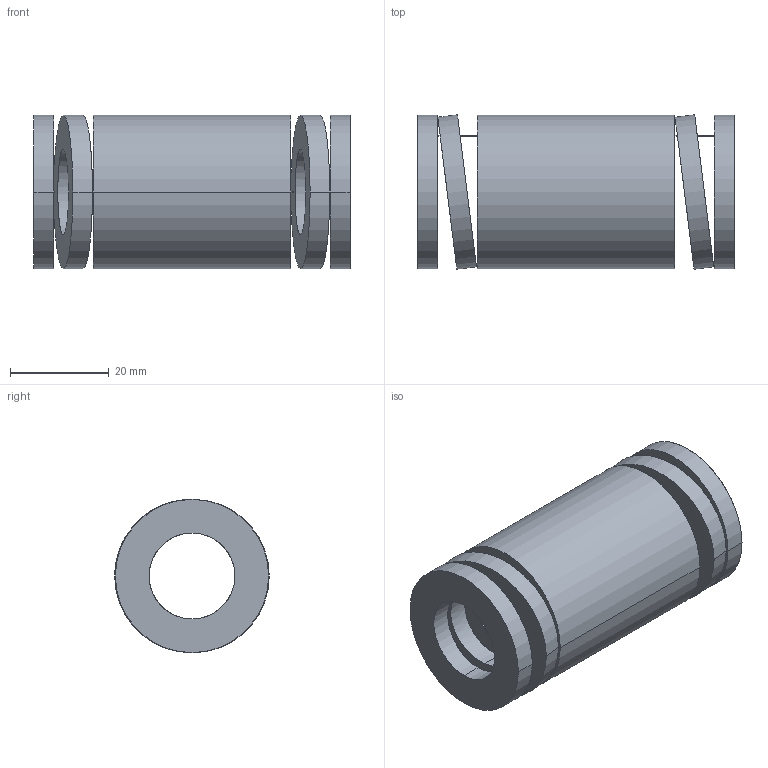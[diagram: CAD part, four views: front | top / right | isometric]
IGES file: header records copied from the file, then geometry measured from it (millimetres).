
Start section: START RECORD GO HERE.
Global section: file name: 392-B32-064.igs; native system: DASSAULT SYSTEMES CATIA V5 R20 - www.3ds.com; preprocessor: CATIA Version 5 Release 20 ; author: Utente; organization: NB04-ASUS; date: 20210813.120959; units: millimetre
Bounding box: 64 x 31.26 x 31 mm (x, y, z)
Surface area: 13685.5 mm2 (no closed solid volume)
Topology: 0 solids, 0 shells, 38 faces, 184 edges, 184 vertices
Faces by surface type: revolution 28, plane 10
